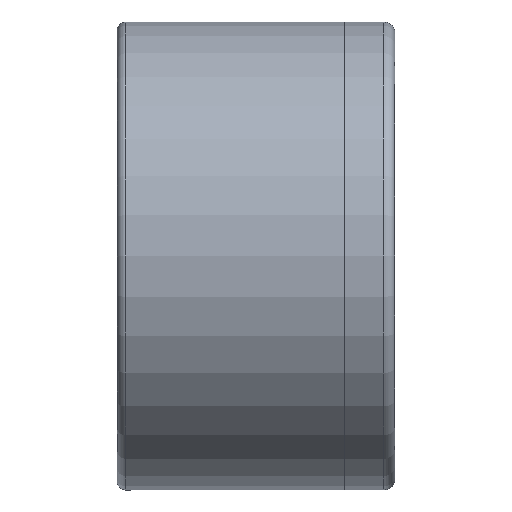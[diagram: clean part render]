
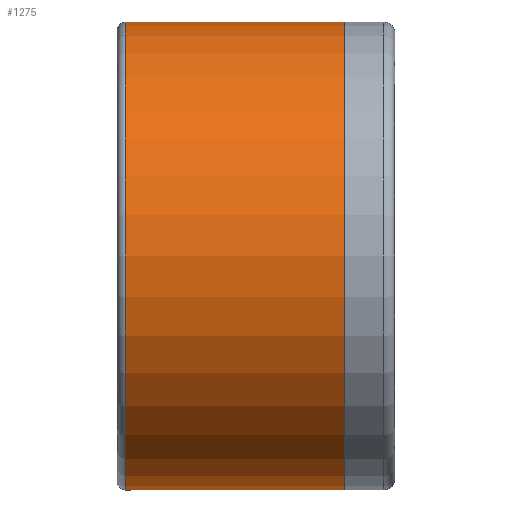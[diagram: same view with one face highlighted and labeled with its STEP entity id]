
A CAD part, left-side view. The second image highlights one B-rep face of the part: STEP entity #1275.
In plain terms, the highlighted cylindrical face has radius 21.1 mm (diameter 42.2 mm), a partial arc.
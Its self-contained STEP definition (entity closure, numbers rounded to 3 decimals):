
#98=FACE_OUTER_BOUND('',#181,.T.);
#181=EDGE_LOOP('',(#898,#899,#900,#901));
#266=LINE('',#2035,#358);
#272=LINE('',#2050,#364);
#358=VECTOR('',#1619,10.);
#364=VECTOR('',#1635,10.);
#444=CIRCLE('',#1382,21.1);
#450=CIRCLE('',#1396,21.1);
#538=VERTEX_POINT('',#2014);
#539=VERTEX_POINT('',#2018);
#543=VERTEX_POINT('',#2034);
#547=VERTEX_POINT('',#2048);
#653=EDGE_CURVE('',#539,#538,#444,.T.);
#660=EDGE_CURVE('',#543,#538,#266,.T.);
#668=EDGE_CURVE('',#539,#547,#272,.T.);
#669=EDGE_CURVE('',#543,#547,#450,.T.);
#898=ORIENTED_EDGE('',*,*,#653,.F.);
#899=ORIENTED_EDGE('',*,*,#668,.T.);
#900=ORIENTED_EDGE('',*,*,#669,.F.);
#901=ORIENTED_EDGE('',*,*,#660,.T.);
#1151=CYLINDRICAL_SURFACE('',#1402,21.1);
#1275=ADVANCED_FACE('',(#98),#1151,.T.);
#1382=AXIS2_PLACEMENT_3D('',#2020,#1600,#1601);
#1396=AXIS2_PLACEMENT_3D('',#2052,#1638,#1639);
#1402=AXIS2_PLACEMENT_3D('',#2065,#1655,#1656);
#1600=DIRECTION('center_axis',(0.,1.,0.));
#1601=DIRECTION('ref_axis',(-1.,0.,0.));
#1619=DIRECTION('',(0.,1.,0.));
#1635=DIRECTION('',(0.,-1.,0.));
#1638=DIRECTION('center_axis',(0.,-1.,0.));
#1639=DIRECTION('ref_axis',(0.,0.,1.));
#1655=DIRECTION('center_axis',(0.,-1.,0.));
#1656=DIRECTION('ref_axis',(0.,0.,1.));
#2014=CARTESIAN_POINT('',(-33.,77.499,21.1));
#2018=CARTESIAN_POINT('',(-33.,77.499,-21.1));
#2020=CARTESIAN_POINT('Origin',(-33.,77.499,0.));
#2034=CARTESIAN_POINT('',(-33.,57.749,21.1));
#2035=CARTESIAN_POINT('',(-33.,57.749,21.1));
#2048=CARTESIAN_POINT('',(-33.,57.749,-21.1));
#2050=CARTESIAN_POINT('',(-33.,57.749,-21.1));
#2052=CARTESIAN_POINT('Origin',(-33.,57.749,0.));
#2065=CARTESIAN_POINT('Origin',(-33.,67.999,0.));
